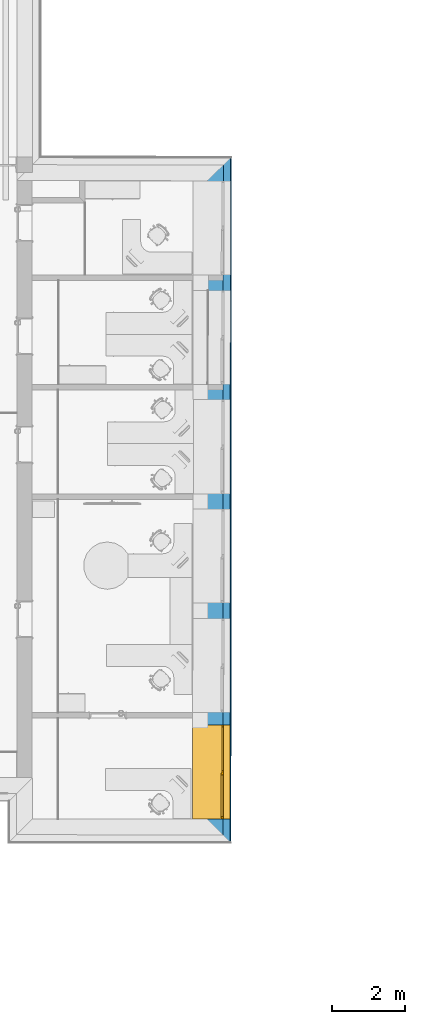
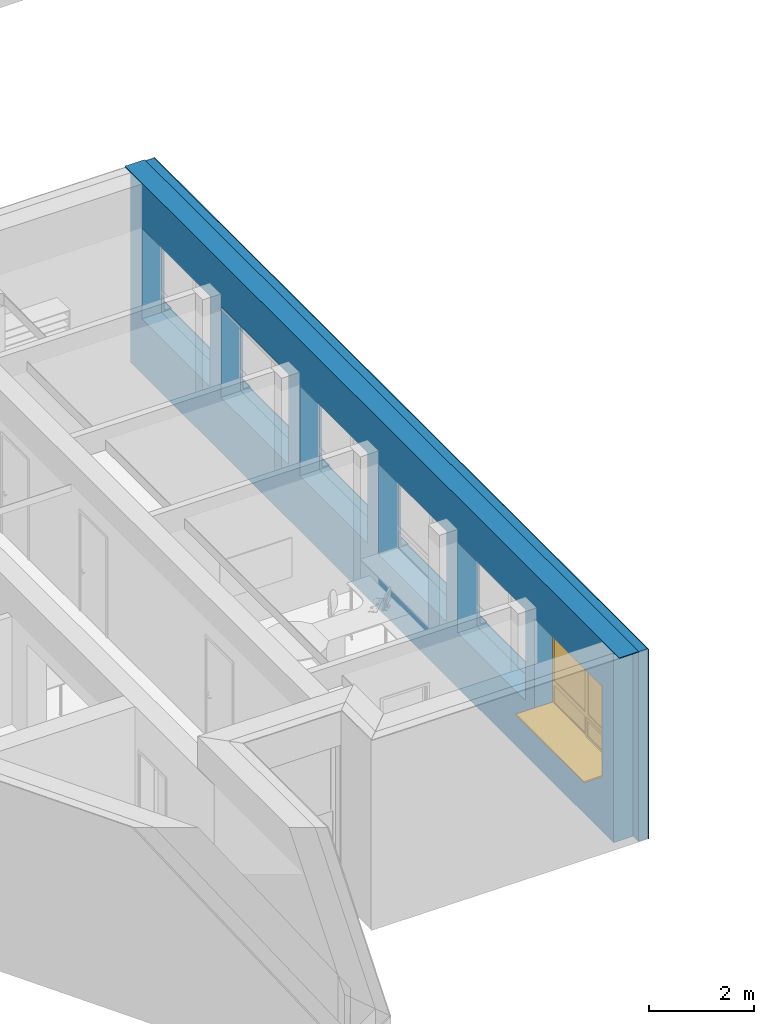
# One storey, part 77 of 194: 3 building element parts, 1 window, 6 openings, 1 element without a shape of its own.
"""IFC2X3 building model written with IfcOpenShell, lengths in millimetres."""

from ifc_helpers import new_model, entity, si_unit, converted_unit, derived_unit, money_unit, direction, frame, origin_with_axes, origin_2d_with_axis, place, context, subcontext, project, spatial, polyline, rectangle, outline, extrude, boolean, open_shell, faceted_brep, surface_model, material, type_object, element, fill, aggregate, save


model = new_model("IFC2X3")

# Units and contexts
model_context = context("Model", 3, precision=1e-05, world=origin_with_axes(), true_north=direction((0.0, 1.0)))
body_context = subcontext(model_context, "Body", "Model", "MODEL_VIEW")
ifc_project = project(units=[si_unit("LENGTHUNIT", "METRE", prefix="MILLI"), si_unit("AREAUNIT", "SQUARE_METRE"), si_unit("VOLUMEUNIT", "CUBIC_METRE"), converted_unit("PLANEANGLEUNIT", "DEGREE", entity("IfcPlaneAngleMeasure", 0.0174532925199), si_unit("PLANEANGLEUNIT", "RADIAN"), dimensions=[0, 0, 0, 0, 0, 0, 0]), si_unit("SOLIDANGLEUNIT", "STERADIAN"), money_unit("EUR"), converted_unit("TIMEUNIT", "Year", entity("IfcTimeMeasure", 31556926.0), si_unit("TIMEUNIT", "SECOND"), dimensions=[0, 0, 1, 0, 0, 0, 0]), si_unit("MASSUNIT", "GRAM", prefix="KILO"), si_unit("THERMODYNAMICTEMPERATUREUNIT", "DEGREE_CELSIUS"), si_unit("LUMINOUSINTENSITYUNIT", "LUMEN"), si_unit("ENERGYUNIT", "JOULE", prefix="MEGA"), derived_unit("THERMALCONDUCTANCEUNIT", [(si_unit("POWERUNIT", "WATT"), 1), (si_unit("LENGTHUNIT", "METRE"), -1), (si_unit("THERMODYNAMICTEMPERATUREUNIT", "KELVIN"), -1)]), derived_unit("SPECIFICHEATCAPACITYUNIT", [(si_unit("ENERGYUNIT", "JOULE"), 1), (si_unit("MASSUNIT", "GRAM", prefix="KILO"), -1), (si_unit("THERMODYNAMICTEMPERATUREUNIT", "KELVIN"), -1)]), derived_unit("MASSDENSITYUNIT", [(si_unit("MASSUNIT", "GRAM", prefix="KILO"), 1), (si_unit("VOLUMEUNIT", "CUBIC_METRE"), -1)])], contexts=[model_context])

# Site, building, storey
site_placement = place(None, origin_with_axes())
site = spatial("IfcSite", under=ifc_project, at=site_placement, Name="Site", CompositionType="ELEMENT")
building_placement = place(site_placement, origin_with_axes())
building = spatial("IfcBuilding", under=site, at=building_placement, Name="Building", CompositionType="ELEMENT")
storey_placement = place(building_placement, frame((0.0, 0.0, 3000.0), z_axis=(0.0, 0.0, 1.0), x_axis=(1.0, 0.0, 0.0)))
storey = spatial("IfcBuildingStorey", under=building, at=storey_placement, Name="2 KORRUS", CompositionType="ELEMENT", Elevation=3000.0)

# Window
window_style = type_object("IfcWindowStyle", Name="A2   2\xa0580×2\xa0100", ConstructionType="NOTDEFINED", OperationType="USERDEFINED", ParameterTakesPrecedence=False, Sizeable=False)
wall_placement = place(storey_placement, frame((45388.6906963, 4389.96789684, -420.0), z_axis=(0.0, 0.0, 1.0), x_axis=(0.000555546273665, 0.999999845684, 0.0)))
opening_1_placement = place(wall_placement, frame((1719.99240846, 0.0, 1270.0), z_axis=(0.0, 0.0, 1.0), x_axis=(1.0, 0.0, 0.0)))
window_placement = place(opening_1_placement, frame((-1290.0, 0.0, 0.0), z_axis=(0.0, 0.0, 1.0), x_axis=(1.0, 0.0, 0.0)))
window = element("IfcWindow", 1, at=window_placement, inside=storey, type_object=window_style, Name="välisaken * Double Window 22", OverallHeight=2100.0, OverallWidth=2580.0, context=body_context, shape_type="SurfaceModel", body=[
    faceted_brep([(9.09494701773e-10, -20.0, 30.0), (9.09494701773e-10, -20.0, 5.0), (9.09494701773e-10, -220.0, 5.0), (9.09494701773e-10, -220.0, 19.5184441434), (2580.0, -20.0, 30.0), (2580.0, -20.0, 5.0), (2580.0, -220.0, 5.0), (2580.0, -220.0, 19.5184441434)], [[[0, 1, 2, 3]], [[4, 5, 1, 0]], [[2, 1, 5, 6]], [[3, 2, 6, 7]], [[4, 0, 3, 7]], [[7, 6, 5, 4]]]),
    faceted_brep([(9.09494701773e-10, -20.0, 0.0), (9.09494701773e-10, -220.0, 0.0), (9.09494701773e-10, -220.0, 5.0), (9.09494701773e-10, -20.0, 5.0), (2580.0, -20.0, 0.0), (2580.0, -220.0, 0.0), (2580.0, -220.0, 5.0), (2580.0, -20.0, 5.0)], [[[0, 1, 2, 3]], [[0, 4, 5, 1]], [[1, 5, 6, 2]], [[3, 2, 6, 7]], [[4, 0, 3, 7]], [[5, 4, 7, 6]]]),
    faceted_brep([(2580.0, 29.9999999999, 0.0), (2580.0, 430.0, 0.0), (2580.0, 430.0, 30.0), (2580.0, 29.9999999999, 30.0), (0.0, 30.0, 0.0), (9.09494701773e-10, 430.0, 0.0), (9.09494701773e-10, 830.0, 0.0), (2580.0, 830.0, 0.0), (2580.0, 830.0, 30.0), (9.09494701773e-10, 830.0, 30.0), (9.09494701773e-10, 430.0, 30.0), (0.0, 30.0, 30.0)], [[[0, 1, 2, 3]], [[0, 4, 5, 6, 7, 1]], [[1, 7, 8, 2]], [[3, 2, 8, 9, 10, 11]], [[4, 0, 3, 11]], [[5, 4, 11, 10]], [[6, 5, 10, 9]], [[7, 6, 9, 8]]]),
    faceted_brep([(25.0000000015, 30.0, 50.0), (0.0, 30.0, 50.0), (0.0, 30.0, 2050.0), (50.0000000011, 30.0, 2050.0), (50.0000000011, 30.0, 550.0), (50.0000000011, 30.0, 475.0), (25.0000000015, 30.0, 475.0), (25.0000000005, 4.99999999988, 50.0), (50.0000000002, 5.0, 50.0), (50.0000000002, -20.0000000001, 50.0), (9.09494701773e-10, -20.0, 50.0), (9.09494701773e-10, -20.0, 2050.0), (50.0000000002, -20.0000000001, 2050.0), (50.0000000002, -20.0000000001, 550.0), (50.0000000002, 5.0, 475.0), (50.0000000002, -20.0000000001, 450.0), (50.0000000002, 5.0, 450.0), (25.0000000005, 4.99999999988, 475.0)], [[[0, 1, 2, 3, 4, 5, 6]], [[7, 8, 9, 10, 1, 0]], [[2, 1, 10, 11]], [[3, 2, 11, 12]], [[4, 3, 12, 13]], [[14, 5, 4, 13, 15, 16]], [[14, 17, 6, 5]], [[6, 17, 7, 0]], [[16, 8, 7, 17, 14]], [[16, 15, 9, 8]], [[13, 12, 11, 10, 9, 15]]]),
    faceted_brep([(1265.0, 30.0000000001, 475.0), (1240.0, 30.0, 475.0), (1240.0, 30.0, 550.0), (1240.0, 30.0, 2050.0), (1340.0, 30.0, 2050.0), (1340.0, 30.0, 550.0), (1340.0, 30.0, 450.0), (1340.0, 30.0, 50.0), (1265.0, 30.0000000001, 50.0), (1265.0, 5.0, 475.0), (1240.0, 4.99999999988, 475.0), (1240.0, 4.99999999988, 450.0), (1240.0, -20.0000000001, 450.0), (1240.0, -20.0000000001, 550.0), (1240.0, -20.0000000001, 2050.0), (1340.0, -20.0000000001, 2050.0), (1340.0, -20.0000000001, 550.0), (1340.0, -20.0000000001, 450.0), (1340.0, -20.0000000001, 50.0), (1265.0, 5.0, 50.0), (1240.0, -20.0000000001, 50.0), (1240.0, 4.99999999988, 50.0)], [[[0, 1, 2, 3, 4, 5, 6, 7, 8]], [[0, 9, 10, 1]], [[10, 11, 12, 13, 2, 1]], [[3, 2, 13, 14]], [[4, 3, 14, 15]], [[5, 4, 15, 16]], [[6, 5, 16, 17]], [[7, 6, 17, 18]], [[19, 8, 7, 18, 20, 21]], [[8, 19, 9, 0]], [[21, 11, 10, 9, 19]], [[21, 20, 12, 11]], [[12, 20, 18, 17, 16, 15, 14, 13]]]),
    faceted_brep([(50.0000000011, 30.0, 475.0), (50.0000000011, 30.0, 550.0), (1240.0, 30.0, 550.0), (1240.0, 30.0, 475.0), (50.0000000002, 5.0, 475.0), (50.0000000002, 5.0, 450.0), (50.0000000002, -20.0000000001, 450.0), (50.0000000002, -20.0000000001, 550.0), (1240.0, -20.0000000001, 550.0), (1240.0, 4.99999999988, 475.0), (1240.0, -20.0000000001, 450.0), (1240.0, 4.99999999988, 450.0)], [[[0, 1, 2, 3]], [[4, 5, 6, 7, 1, 0]], [[2, 1, 7, 8]], [[9, 3, 2, 8, 10, 11]], [[9, 4, 0, 3]], [[11, 5, 4, 9]], [[11, 10, 6, 5]], [[8, 7, 6, 10]]]),
    faceted_brep([(1240.0, 4.99999999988, 50.0), (1240.0, -20.0000000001, 50.0), (1340.0, -20.0000000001, 50.0), (1340.0, 30.0, 50.0), (1265.0, 30.0000000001, 50.0), (1265.0, 5.0, 50.0), (50.0000000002, 5.0, 50.0), (50.0000000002, -20.0000000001, 50.0), (9.09494701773e-10, -20.0, 50.0), (9.09494701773e-10, -20.0, 0.0), (2580.0, -20.0, 0.0), (2580.0, -20.0, 50.0), (2530.0, -20.0000000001, 50.0), (2530.0, 30.0, 50.0), (25.0000000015, 30.0, 25.0), (1265.0, 30.0000000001, 25.0), (2580.0, 29.9999999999, 50.0), (2580.0, 29.9999999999, 0.0), (0.0, 30.0, 0.0), (0.0, 30.0, 50.0), (25.0000000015, 30.0, 50.0), (1265.0, 5.0, 25.0), (25.0000000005, 4.99999999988, 25.0), (25.0000000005, 4.99999999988, 50.0)], [[[0, 1, 2, 3, 4, 5]], [[6, 7, 1, 0]], [[8, 9, 10, 11, 12, 2, 1, 7]], [[13, 3, 2, 12]], [[14, 15, 4, 3, 13, 16, 17, 18, 19, 20]], [[15, 21, 5, 4]], [[5, 21, 22, 23, 6, 0]], [[23, 20, 19, 8, 7, 6]], [[19, 18, 9, 8]], [[18, 17, 10, 9]], [[17, 16, 11, 10]], [[16, 13, 12, 11]], [[14, 22, 21, 15]], [[23, 22, 14, 20]]]),
    faceted_brep([(2530.0, -20.0000000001, 50.0), (2530.0, 30.0, 50.0), (2580.0, 29.9999999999, 50.0), (2580.0, -20.0, 50.0), (2530.0, -20.0000000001, 450.0), (2530.0, 30.0, 450.0), (2530.0, 30.0, 550.0), (2530.0, 30.0, 2050.0), (2580.0, 29.9999999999, 2050.0), (2580.0, -20.0, 2050.0), (2530.0, -20.0000000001, 2050.0), (2530.0, -20.0000000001, 550.0)], [[[0, 1, 2, 3]], [[4, 5, 1, 0]], [[1, 5, 6, 7, 8, 2]], [[3, 2, 8, 9]], [[0, 3, 9, 10, 11, 4]], [[11, 6, 5, 4]], [[10, 7, 6, 11]], [[9, 8, 7, 10]]]),
    faceted_brep([(1340.0, -20.0000000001, 550.0), (1340.0, 30.0, 550.0), (1340.0, 30.0, 450.0), (1340.0, -20.0000000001, 450.0), (2530.0, -20.0000000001, 550.0), (2530.0, 30.0, 550.0), (2530.0, 30.0, 450.0), (2530.0, -20.0000000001, 450.0)], [[[0, 1, 2, 3]], [[4, 5, 1, 0]], [[1, 5, 6, 2]], [[3, 2, 6, 7]], [[0, 3, 7, 4]], [[7, 6, 5, 4]]]),
    faceted_brep([(1240.0, -20.0000000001, 2050.0), (1240.0, 30.0, 2050.0), (1340.0, 30.0, 2050.0), (1340.0, -20.0000000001, 2050.0), (50.0000000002, -20.0000000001, 2050.0), (50.0000000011, 30.0, 2050.0), (0.0, 30.0, 2050.0), (0.0, 30.0, 2100.0), (2580.0, 29.9999999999, 2100.0), (2580.0, 29.9999999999, 2050.0), (2530.0, 30.0, 2050.0), (2530.0, -20.0000000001, 2050.0), (2580.0, -20.0, 2050.0), (2580.0, -20.0, 2100.0), (9.09494701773e-10, -20.0, 2100.0), (9.09494701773e-10, -20.0, 2050.0)], [[[0, 1, 2, 3]], [[4, 5, 1, 0]], [[1, 5, 6, 7, 8, 9, 10, 2]], [[3, 2, 10, 11]], [[0, 3, 11, 12, 13, 14, 15, 4]], [[15, 6, 5, 4]], [[14, 7, 6, 15]], [[13, 8, 7, 14]], [[12, 9, 8, 13]], [[11, 10, 9, 12]]]),
    surface_model("IfcShellBasedSurfaceModel", [(50.0000000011, -5.0, 550.0), (1240.0, -5.0, 550.0), (1240.0, -5.0, 2050.0), (50.0000000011, -5.0, 2050.0)], [open_shell([[[0, 1, 2, 3]]])]),
    surface_model("IfcShellBasedSurfaceModel", [(50.0000000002, 15.0, 550.0), (50.0000000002, 15.0, 2050.0), (1240.0, 15.0, 2050.0), (1240.0, 15.0, 550.0)], [open_shell([[[0, 1, 2, 3]]])]),
    surface_model("IfcShellBasedSurfaceModel", [(1340.0, -5.00000000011, 550.0), (2530.0, -5.0, 550.0), (2530.0, -5.0, 2050.0), (1340.0, -5.00000000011, 2050.0)], [open_shell([[[0, 1, 2, 3]]])]),
    surface_model("IfcShellBasedSurfaceModel", [(1340.0, 14.9999999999, 550.0), (1340.0, 14.9999999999, 2050.0), (2530.0, 15.0, 2050.0), (2530.0, 15.0, 550.0)], [open_shell([[[0, 1, 2, 3]]])]),
    faceted_brep([(75.0000000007, 5.0, 425.0), (75.0000000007, 54.9999999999, 425.0), (25.0000000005, 54.9999999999, 425.0), (25.0000000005, 4.99999999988, 425.0), (75.0000000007, 5.0, 75.0), (75.0000000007, 54.9999999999, 75.0), (25.0000000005, 54.9999999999, 75.0), (25.0000000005, 4.99999999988, 75.0)], [[[0, 1, 2, 3]], [[4, 5, 1, 0]], [[1, 5, 6, 2]], [[3, 2, 6, 7]], [[0, 3, 7, 4]], [[7, 6, 5, 4]]]),
    faceted_brep([(1215.0, 4.99999999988, 75.0), (1215.0, 54.9999999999, 75.0), (1265.0, 54.9999999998, 75.0), (1265.0, 5.0, 75.0), (1215.0, 4.99999999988, 425.0), (1215.0, 54.9999999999, 425.0), (1265.0, 54.9999999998, 425.0), (1265.0, 5.0, 425.0)], [[[0, 1, 2, 3]], [[4, 5, 1, 0]], [[1, 5, 6, 2]], [[3, 2, 6, 7]], [[0, 3, 7, 4]], [[7, 6, 5, 4]]]),
    faceted_brep([(1265.0, 5.0, 25.0), (1265.0, 54.9999999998, 25.0), (1265.0, 54.9999999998, 75.0), (1265.0, 5.0, 75.0), (25.0000000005, 4.99999999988, 25.0), (25.0000000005, 54.9999999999, 25.0), (25.0000000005, 54.9999999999, 75.0), (75.0000000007, 54.9999999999, 75.0), (1215.0, 54.9999999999, 75.0), (1215.0, 4.99999999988, 75.0), (75.0000000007, 5.0, 75.0), (25.0000000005, 4.99999999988, 75.0)], [[[0, 1, 2, 3]], [[4, 5, 1, 0]], [[1, 5, 6, 7, 8, 2]], [[3, 2, 8, 9]], [[0, 3, 9, 10, 11, 4]], [[11, 6, 5, 4]], [[10, 7, 6, 11]], [[9, 8, 7, 10]]]),
    faceted_brep([(25.0000000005, 4.99999999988, 475.0), (25.0000000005, 54.9999999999, 475.0), (25.0000000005, 54.9999999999, 425.0), (25.0000000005, 4.99999999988, 425.0), (1265.0, 5.0, 475.0), (1265.0, 54.9999999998, 475.0), (1265.0, 54.9999999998, 425.0), (1215.0, 54.9999999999, 425.0), (75.0000000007, 54.9999999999, 425.0), (75.0000000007, 5.0, 425.0), (1215.0, 4.99999999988, 425.0), (1265.0, 5.0, 425.0)], [[[0, 1, 2, 3]], [[4, 5, 1, 0]], [[1, 5, 6, 7, 8, 2]], [[3, 2, 8, 9]], [[0, 3, 9, 10, 11, 4]], [[11, 6, 5, 4]], [[10, 7, 6, 11]], [[9, 8, 7, 10]]]),
    surface_model("IfcShellBasedSurfaceModel", [(75.0000000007, 20.0, 75.0), (1215.0, 20.0, 75.0), (1215.0, 20.0, 425.0), (75.0000000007, 20.0, 425.0)], [open_shell([[[0, 1, 2, 3]]])]),
    surface_model("IfcShellBasedSurfaceModel", [(75.0000000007, 40.0, 75.0), (75.0000000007, 40.0, 425.0), (1215.0, 40.0, 425.0), (1215.0, 40.0, 75.0)], [open_shell([[[0, 1, 2, 3]]])]),
    surface_model("IfcShellBasedSurfaceModel", [(1340.0, -5.00000000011, 50.0), (2530.0, -5.0, 50.0), (2530.0, -5.0, 450.0), (1340.0, -5.00000000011, 450.0)], [open_shell([[[0, 1, 2, 3]]])]),
    surface_model("IfcShellBasedSurfaceModel", [(1340.0, 14.9999999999, 50.0), (1340.0, 14.9999999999, 450.0), (2530.0, 15.0, 450.0), (2530.0, 15.0, 50.0)], [open_shell([[[0, 1, 2, 3]]])]),
])

# Wall, opening
wall_type = type_object("IfcWallType", Name="VS4", PredefinedType="NOTDEFINED")
wall = element("IfcWall", 2, at=wall_placement, inside=storey, type_object=wall_type, Name="VS4")
opening_1 = element("IfcOpeningElement", 3, at=opening_1_placement, cuts=wall, Name="välisaken * Double Window 22", context=body_context, shape_type="SweptSolid", body=[
    extrude(rectangle(XDim=2580.0, YDim=2100.0, at=origin_2d_with_axis()), frame((9.09494701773e-10, -20.0, 1050.0), z_axis=(0.0, -1.0, 0.0), x_axis=(1.0, 0.0, 0.0)), (0.0, 0.0, -1.0), 1100.0),
    extrude(rectangle(XDim=2580.0, YDim=2100.0, at=origin_2d_with_axis()), frame((9.09494701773e-10, -20.0000000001, 1050.0), z_axis=(0.0, 1.0, 0.0), x_axis=(1.0, 0.0, 0.0)), (0.0, 0.0, -1.0), 850.0),
])

fill(opening_1, window)

# Opening
opening_2_placement = place(wall_placement, frame((7639.96095485, 0.0, 1270.0), z_axis=(0.0, 0.0, 1.0), x_axis=(1.0, 0.0, 0.0)))
element("IfcOpeningElement", 4, at=opening_2_placement, cuts=wall, Name="välisaken * Double Window 22", context=body_context, shape_type="SweptSolid", body=[
    extrude(rectangle(XDim=2580.0, YDim=2100.0, at=origin_2d_with_axis()), frame((9.09494701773e-10, -19.9999999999, 1050.0), z_axis=(0.0, -1.0, 0.0), x_axis=(1.0, 0.0, 0.0)), (0.0, 0.0, -1.0), 1100.0),
    extrude(rectangle(XDim=2580.0, YDim=2100.0, at=origin_2d_with_axis()), frame((9.09494701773e-10, -20.0, 1050.0), z_axis=(0.0, 1.0, 0.0), x_axis=(1.0, 0.0, 0.0)), (0.0, 0.0, -1.0), 850.0),
])

opening_3_placement = place(wall_placement, frame((10639.9002006, -1.13686837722e-10, 1270.0), z_axis=(0.0, 0.0, 1.0), x_axis=(1.0, 0.0, 0.0)))
element("IfcOpeningElement", 5, at=opening_3_placement, cuts=wall, Name="välisaken * Double Window 22", context=body_context, shape_type="SweptSolid", body=[
    extrude(rectangle(XDim=2580.0, YDim=2100.0, at=origin_2d_with_axis()), frame((9.09494701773e-10, -19.9999999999, 1050.0), z_axis=(0.0, -1.0, 0.0), x_axis=(1.0, 0.0, 0.0)), (0.0, 0.0, -1.0), 1100.0),
    extrude(rectangle(XDim=2580.0, YDim=2100.0, at=origin_2d_with_axis()), frame((0.0, -20.0, 1050.0), z_axis=(0.0, 1.0, 0.0), x_axis=(1.0, 0.0, 0.0)), (0.0, 0.0, -1.0), 850.0),
])

opening_4_placement = place(wall_placement, frame((13639.8047206, -1.13686837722e-10, 1270.0), z_axis=(0.0, 0.0, 1.0), x_axis=(1.0, 0.0, 0.0)))
element("IfcOpeningElement", 6, at=opening_4_placement, cuts=wall, Name="välisaken * Double Window 22", context=body_context, shape_type="SweptSolid", body=[
    extrude(rectangle(XDim=2580.0, YDim=2100.0, at=origin_2d_with_axis()), frame((9.09494701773e-10, -19.9999999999, 1050.0), z_axis=(0.0, -1.0, 0.0), x_axis=(1.0, 0.0, 0.0)), (0.0, 0.0, -1.0), 1100.0),
    extrude(rectangle(XDim=2580.0, YDim=2100.0, at=origin_2d_with_axis()), frame((1.81898940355e-09, -20.0, 1050.0), z_axis=(0.0, 1.0, 0.0), x_axis=(1.0, 0.0, 0.0)), (0.0, 0.0, -1.0), 850.0),
])

opening_5_placement = place(wall_placement, frame((16639.9800092, 0.0, 1270.0), z_axis=(0.0, 0.0, 1.0), x_axis=(1.0, 0.0, 0.0)))
element("IfcOpeningElement", 7, at=opening_5_placement, cuts=wall, Name="välisaken * Double Window 22", context=body_context, shape_type="SweptSolid", body=[
    extrude(rectangle(XDim=2580.0, YDim=2100.0, at=origin_2d_with_axis()), frame((0.0, -20.0000000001, 1050.0), z_axis=(0.0, -1.0, 0.0), x_axis=(1.0, 0.0, 0.0)), (0.0, 0.0, -1.0), 1100.0),
    extrude(rectangle(XDim=2580.0, YDim=2100.0, at=origin_2d_with_axis()), frame((0.0, -20.0000000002, 1050.0), z_axis=(0.0, 1.0, 0.0), x_axis=(1.0, 0.0, 0.0)), (0.0, 0.0, -1.0), 850.0),
])

opening_6_placement = place(wall_placement, frame((4639.9161327, 0.0, 1270.0), z_axis=(0.0, 0.0, 1.0), x_axis=(1.0, 0.0, 0.0)))
element("IfcOpeningElement", 8, at=opening_6_placement, cuts=wall, Name="välisaken * Double Window 22", context=body_context, shape_type="SweptSolid", body=[
    extrude(rectangle(XDim=2580.0, YDim=2100.0, at=origin_2d_with_axis()), frame((9.09494701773e-10, -20.0, 1050.0), z_axis=(0.0, -1.0, 0.0), x_axis=(1.0, 0.0, 0.0)), (0.0, 0.0, -1.0), 1100.0),
    extrude(rectangle(XDim=2580.0, YDim=2100.0, at=origin_2d_with_axis()), frame((9.09494701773e-10, -20.0000000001, 1050.0), z_axis=(0.0, 1.0, 0.0), x_axis=(1.0, 0.0, 0.0)), (0.0, 0.0, -1.0), 850.0),
])

# Building element part
ifc_material_1 = material(Name="Tellis - Konstuktsioon")
building_element_part_1_placement = place(wall_placement, origin_with_axes())
building_element_part_1 = element("IfcBuildingElementPart", 9, at=building_element_part_1_placement, material=ifc_material_1, Name="Tellis - Konstuktsioon", context=body_context, shape_type="CSG", body=[
    boolean("DIFFERENCE", boolean("DIFFERENCE", boolean("DIFFERENCE", boolean("DIFFERENCE", boolean("DIFFERENCE", boolean("DIFFERENCE", extrude(outline(polyline([(-220.007591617, 0.0), (18579.9522338, 0.0), (18579.9522338, 430.0), (-220.007591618, 430.0), (-220.007591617, 0.0)])), origin_with_axes(), (0.0, 0.0, 1.0), 4420.0), faceted_brep([(0.0, 0.0, 4400.0), (-220.000000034, -1.13686837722e-10, 4400.0), (-220.007591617, 0.0, 0.0), (0.0, 1.13686837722e-10, 0.0), (-0.00759158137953, 430.0, 4400.0), (-220.007591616, 430.0, 4400.0), (-220.007591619, 430.0, 0.0), (-0.00759158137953, 430.0, 0.0)], [[[0, 1, 2, 3]], [[1, 0, 4, 5]], [[1, 5, 6, 2]], [[7, 3, 2, 6]], [[0, 3, 7, 4]], [[4, 7, 6, 5]]])), faceted_brep([(18579.9522338, 430.0, 4420.0), (18579.0005259, 0.0, 4420.0), (18579.9522338, 0.0, 4420.0), (18579.0005263, -9.09494701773e-10, 4400.0), (18579.9522348, 429.999999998, 4400.0), (18358.9999871, -2.27373675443e-10, 4400.0), (18358.9999871, -1.13686837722e-10, 0.0), (18579.9522338, 0.0, 0.0), (18579.9522338, 430.0, 0.0), (18359.951695, 430.0, 4400.0), (18359.951695, 430.0, 0.0)], [[[0, 1, 2]], [[3, 1, 0, 4]], [[5, 6, 7, 2, 1, 3]], [[4, 0, 2, 7, 8]], [[5, 3, 4, 9]], [[6, 5, 9, 10]], [[6, 10, 8, 7]], [[9, 4, 8, 10]]])), faceted_brep([(0.111082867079, -200.0, 1300.0), (18196.9295608, -200.0, 1300.0), (18196.9295608, -200.0, 3400.0), (0.111082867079, -200.0, 3400.0), (0.0345998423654, -62.3282756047, 1300.0), (18196.8474617, -52.2191024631, 1300.0), (18196.8474617, -52.2191024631, 3400.0), (0.0345998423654, -62.3282756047, 3400.0)], [[[0, 1, 2, 3]], [[1, 0, 4, 5]], [[2, 1, 5, 6]], [[3, 2, 6, 7]], [[0, 3, 7, 4]], [[5, 4, 7, 6]]])), faceted_brep([(-199.996469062, -200.0, 0.0), (-199.996469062, -200.0, 4400.0), (18558.5578221, -200.0, 4400.0), (18558.5578221, -200.0, 0.0), (18579.9522338, -200.0, 0.0), (18579.9522338, -200.0, 4420.0), (-220.007591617, -200.0, 4420.0), (-220.007591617, -200.0, 0.0), (-200.000000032, 0.0, 0.0), (-200.000000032, -1.13686837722e-10, 4400.0), (18358.9999871, -2.27373675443e-10, 4400.0), (18559.0004769, 0.0, 4400.0), (18559.0004769, 0.0, 0.0), (18579.9522338, 0.0, 0.0), (18579.9522338, 0.0, 4420.0), (-220.007591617, 0.0, 4420.0), (-220.007591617, 0.0, 0.0)], [[[0, 1, 2, 3, 4, 5, 6, 7]], [[1, 0, 8, 9]], [[10, 11, 2, 1, 9]], [[3, 2, 11, 12]], [[3, 12, 13, 4]], [[5, 4, 13, 14]], [[15, 6, 5, 14]], [[15, 16, 7, 6]], [[8, 0, 7, 16]], [[9, 8, 16, 15, 14, 13, 12, 11, 10]]])), faceted_brep([(0.111082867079, -200.0, 1300.0), (0.111082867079, -200.0, 3400.0), (18196.9295608, -200.0, 3400.0), (18196.9295608, -200.0, 1300.0), (0.122193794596, -220.0, 1300.0), (0.122193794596, -220.0, 3400.0), (18196.9406717, -220.0, 3400.0), (18196.9406717, -220.0, 1300.0)], [[[0, 1, 2, 3]], [[4, 5, 1, 0]], [[5, 6, 2, 1]], [[6, 7, 3, 2]], [[7, 4, 0, 3]], [[4, 7, 6, 5]]])), faceted_brep([(-219.996115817, -220.0, 4400.0), (18558.5135566, -220.0, 4400.0), (18578.5136056, -220.0, 4400.0), (18578.5136056, -220.0, 0.0), (18579.9522338, -220.0, 0.0), (18579.9522338, -220.0, 4420.0), (-220.007591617, -220.0, 4420.0), (-220.007591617, -220.0, 0.0), (-219.996115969, -220.0, 0.0), (-219.996468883, -200.0, 4400.0), (18558.5578221, -200.0, 4400.0), (18578.5578711, -200.0, 4400.0), (18578.5578711, -200.0, 0.0), (18579.9522338, -200.0, 0.0), (18579.9522338, -200.0, 4420.0), (-220.007591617, -200.0, 4420.0), (-220.007591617, -200.0, 0.0), (-219.996469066, -200.0, 0.0)], [[[0, 1, 2, 3, 4, 5, 6, 7, 8]], [[2, 1, 0, 9, 10, 11]], [[3, 2, 11, 12]], [[3, 12, 13, 4]], [[5, 4, 13, 14]], [[15, 6, 5, 14]], [[15, 16, 7, 6]], [[17, 8, 7, 16]], [[0, 8, 17, 9]], [[9, 17, 16, 15, 14, 13, 12, 11, 10]]])),
])

ifc_material_2 = material(Name="Soojustus - Plastik Kõva")
building_element_part_2_placement = place(wall_placement, origin_with_axes())
building_element_part_2 = element("IfcBuildingElementPart", 10, at=building_element_part_2_placement, material=ifc_material_2, Name="Soojustus - Plastik Kõva", context=body_context, shape_type="CSG", body=[
    boolean("DIFFERENCE", boolean("DIFFERENCE", boolean("DIFFERENCE", boolean("DIFFERENCE", boolean("DIFFERENCE", boolean("DIFFERENCE", extrude(outline(polyline([(-220.007591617, -200.0), (18579.9522338, -200.0), (18579.9522338, 0.0), (-220.007591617, 0.0), (-220.007591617, -200.0)])), origin_with_axes(), (0.0, 0.0, 1.0), 4420.0), faceted_brep([(0.0, 0.0, 4400.0), (-220.000000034, -1.13686837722e-10, 4400.0), (-220.007591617, 0.0, 0.0), (0.0, 1.13686837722e-10, 0.0), (-0.00759158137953, 430.0, 4400.0), (-220.007591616, 430.0, 4400.0), (-220.007591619, 430.0, 0.0), (-0.00759158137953, 430.0, 0.0)], [[[0, 1, 2, 3]], [[1, 0, 4, 5]], [[1, 5, 6, 2]], [[7, 3, 2, 6]], [[0, 3, 7, 4]], [[4, 7, 6, 5]]])), faceted_brep([(18579.9522338, 430.0, 4420.0), (18579.0005259, 0.0, 4420.0), (18579.9522338, 0.0, 4420.0), (18579.0005263, -9.09494701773e-10, 4400.0), (18579.9522348, 429.999999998, 4400.0), (18358.9999871, -2.27373675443e-10, 4400.0), (18358.9999871, -1.13686837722e-10, 0.0), (18579.9522338, 0.0, 0.0), (18579.9522338, 430.0, 0.0), (18359.951695, 430.0, 4400.0), (18359.951695, 430.0, 0.0)], [[[0, 1, 2]], [[3, 1, 0, 4]], [[5, 6, 7, 2, 1, 3]], [[4, 0, 2, 7, 8]], [[5, 3, 4, 9]], [[6, 5, 9, 10]], [[6, 10, 8, 7]], [[9, 4, 8, 10]]])), faceted_brep([(0.111082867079, -200.0, 1300.0), (18196.9295608, -200.0, 1300.0), (18196.9295608, -200.0, 3400.0), (0.111082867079, -200.0, 3400.0), (0.0345998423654, -62.3282756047, 1300.0), (18196.8474617, -52.2191024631, 1300.0), (18196.8474617, -52.2191024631, 3400.0), (0.0345998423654, -62.3282756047, 3400.0)], [[[0, 1, 2, 3]], [[1, 0, 4, 5]], [[2, 1, 5, 6]], [[3, 2, 6, 7]], [[0, 3, 7, 4]], [[5, 4, 7, 6]]])), faceted_brep([(-199.996469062, -200.0, 0.0), (-199.996469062, -200.0, 4400.0), (18558.5578221, -200.0, 4400.0), (18558.5578221, -200.0, 0.0), (18579.9522338, -200.0, 0.0), (18579.9522338, -200.0, 4420.0), (-220.007591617, -200.0, 4420.0), (-220.007591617, -200.0, 0.0), (-200.000000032, 0.0, 0.0), (-200.000000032, -1.13686837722e-10, 4400.0), (18358.9999871, -2.27373675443e-10, 4400.0), (18559.0004769, 0.0, 4400.0), (18559.0004769, 0.0, 0.0), (18579.9522338, 0.0, 0.0), (18579.9522338, 0.0, 4420.0), (-220.007591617, 0.0, 4420.0), (-220.007591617, 0.0, 0.0)], [[[0, 1, 2, 3, 4, 5, 6, 7]], [[1, 0, 8, 9]], [[10, 11, 2, 1, 9]], [[3, 2, 11, 12]], [[3, 12, 13, 4]], [[5, 4, 13, 14]], [[15, 6, 5, 14]], [[15, 16, 7, 6]], [[8, 0, 7, 16]], [[9, 8, 16, 15, 14, 13, 12, 11, 10]]])), faceted_brep([(0.111082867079, -200.0, 1300.0), (0.111082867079, -200.0, 3400.0), (18196.9295608, -200.0, 3400.0), (18196.9295608, -200.0, 1300.0), (0.122193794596, -220.0, 1300.0), (0.122193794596, -220.0, 3400.0), (18196.9406717, -220.0, 3400.0), (18196.9406717, -220.0, 1300.0)], [[[0, 1, 2, 3]], [[4, 5, 1, 0]], [[5, 6, 2, 1]], [[6, 7, 3, 2]], [[7, 4, 0, 3]], [[4, 7, 6, 5]]])), faceted_brep([(-219.996115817, -220.0, 4400.0), (18558.5135566, -220.0, 4400.0), (18578.5136056, -220.0, 4400.0), (18578.5136056, -220.0, 0.0), (18579.9522338, -220.0, 0.0), (18579.9522338, -220.0, 4420.0), (-220.007591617, -220.0, 4420.0), (-220.007591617, -220.0, 0.0), (-219.996115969, -220.0, 0.0), (-219.996468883, -200.0, 4400.0), (18558.5578221, -200.0, 4400.0), (18578.5578711, -200.0, 4400.0), (18578.5578711, -200.0, 0.0), (18579.9522338, -200.0, 0.0), (18579.9522338, -200.0, 4420.0), (-220.007591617, -200.0, 4420.0), (-220.007591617, -200.0, 0.0), (-219.996469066, -200.0, 0.0)], [[[0, 1, 2, 3, 4, 5, 6, 7, 8]], [[2, 1, 0, 9, 10, 11]], [[3, 2, 11, 12]], [[3, 12, 13, 4]], [[5, 4, 13, 14]], [[15, 6, 5, 14]], [[15, 16, 7, 6]], [[17, 8, 7, 16]], [[0, 8, 17, 9]], [[9, 17, 16, 15, 14, 13, 12, 11, 10]]])),
])

ifc_material_3 = material(Name="Tellis - Viimistlus")
building_element_part_3_placement = place(wall_placement, origin_with_axes())
building_element_part_3 = element("IfcBuildingElementPart", 11, at=building_element_part_3_placement, material=ifc_material_3, Name="Tellis - Viimistlus", context=body_context, shape_type="CSG", body=[
    boolean("DIFFERENCE", boolean("DIFFERENCE", boolean("DIFFERENCE", boolean("DIFFERENCE", boolean("DIFFERENCE", boolean("DIFFERENCE", extrude(outline(polyline([(-220.007591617, -220.0), (18579.9522338, -220.0), (18579.9522338, -200.0), (-220.007591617, -200.0), (-220.007591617, -220.0)])), origin_with_axes(), (0.0, 0.0, 1.0), 4420.0), faceted_brep([(0.0, 0.0, 4400.0), (-220.000000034, -1.13686837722e-10, 4400.0), (-220.007591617, 0.0, 0.0), (0.0, 1.13686837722e-10, 0.0), (-0.00759158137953, 430.0, 4400.0), (-220.007591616, 430.0, 4400.0), (-220.007591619, 430.0, 0.0), (-0.00759158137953, 430.0, 0.0)], [[[0, 1, 2, 3]], [[1, 0, 4, 5]], [[1, 5, 6, 2]], [[7, 3, 2, 6]], [[0, 3, 7, 4]], [[4, 7, 6, 5]]])), faceted_brep([(18579.9522338, 430.0, 4420.0), (18579.0005259, 0.0, 4420.0), (18579.9522338, 0.0, 4420.0), (18579.0005263, -9.09494701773e-10, 4400.0), (18579.9522348, 429.999999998, 4400.0), (18358.9999871, -2.27373675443e-10, 4400.0), (18358.9999871, -1.13686837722e-10, 0.0), (18579.9522338, 0.0, 0.0), (18579.9522338, 430.0, 0.0), (18359.951695, 430.0, 4400.0), (18359.951695, 430.0, 0.0)], [[[0, 1, 2]], [[3, 1, 0, 4]], [[5, 6, 7, 2, 1, 3]], [[4, 0, 2, 7, 8]], [[5, 3, 4, 9]], [[6, 5, 9, 10]], [[6, 10, 8, 7]], [[9, 4, 8, 10]]])), faceted_brep([(0.111082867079, -200.0, 1300.0), (18196.9295608, -200.0, 1300.0), (18196.9295608, -200.0, 3400.0), (0.111082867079, -200.0, 3400.0), (0.0345998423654, -62.3282756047, 1300.0), (18196.8474617, -52.2191024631, 1300.0), (18196.8474617, -52.2191024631, 3400.0), (0.0345998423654, -62.3282756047, 3400.0)], [[[0, 1, 2, 3]], [[1, 0, 4, 5]], [[2, 1, 5, 6]], [[3, 2, 6, 7]], [[0, 3, 7, 4]], [[5, 4, 7, 6]]])), faceted_brep([(-199.996469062, -200.0, 0.0), (-199.996469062, -200.0, 4400.0), (18558.5578221, -200.0, 4400.0), (18558.5578221, -200.0, 0.0), (18579.9522338, -200.0, 0.0), (18579.9522338, -200.0, 4420.0), (-220.007591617, -200.0, 4420.0), (-220.007591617, -200.0, 0.0), (-200.000000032, 0.0, 0.0), (-200.000000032, -1.13686837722e-10, 4400.0), (18358.9999871, -2.27373675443e-10, 4400.0), (18559.0004769, 0.0, 4400.0), (18559.0004769, 0.0, 0.0), (18579.9522338, 0.0, 0.0), (18579.9522338, 0.0, 4420.0), (-220.007591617, 0.0, 4420.0), (-220.007591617, 0.0, 0.0)], [[[0, 1, 2, 3, 4, 5, 6, 7]], [[1, 0, 8, 9]], [[10, 11, 2, 1, 9]], [[3, 2, 11, 12]], [[3, 12, 13, 4]], [[5, 4, 13, 14]], [[15, 6, 5, 14]], [[15, 16, 7, 6]], [[8, 0, 7, 16]], [[9, 8, 16, 15, 14, 13, 12, 11, 10]]])), faceted_brep([(0.111082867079, -200.0, 1300.0), (0.111082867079, -200.0, 3400.0), (18196.9295608, -200.0, 3400.0), (18196.9295608, -200.0, 1300.0), (0.122193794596, -220.0, 1300.0), (0.122193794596, -220.0, 3400.0), (18196.9406717, -220.0, 3400.0), (18196.9406717, -220.0, 1300.0)], [[[0, 1, 2, 3]], [[4, 5, 1, 0]], [[5, 6, 2, 1]], [[6, 7, 3, 2]], [[7, 4, 0, 3]], [[4, 7, 6, 5]]])), faceted_brep([(-219.996115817, -220.0, 4400.0), (18558.5135566, -220.0, 4400.0), (18578.5136056, -220.0, 4400.0), (18578.5136056, -220.0, 0.0), (18579.9522338, -220.0, 0.0), (18579.9522338, -220.0, 4420.0), (-220.007591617, -220.0, 4420.0), (-220.007591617, -220.0, 0.0), (-219.996115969, -220.0, 0.0), (-219.996468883, -200.0, 4400.0), (18558.5578221, -200.0, 4400.0), (18578.5578711, -200.0, 4400.0), (18578.5578711, -200.0, 0.0), (18579.9522338, -200.0, 0.0), (18579.9522338, -200.0, 4420.0), (-220.007591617, -200.0, 4420.0), (-220.007591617, -200.0, 0.0), (-219.996469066, -200.0, 0.0)], [[[0, 1, 2, 3, 4, 5, 6, 7, 8]], [[2, 1, 0, 9, 10, 11]], [[3, 2, 11, 12]], [[3, 12, 13, 4]], [[5, 4, 13, 14]], [[15, 6, 5, 14]], [[15, 16, 7, 6]], [[17, 8, 7, 16]], [[0, 8, 17, 9]], [[9, 17, 16, 15, 14, 13, 12, 11, 10]]])),
])

aggregate(wall, [building_element_part_1, building_element_part_2, building_element_part_3])

save(model, "model.ifc")
